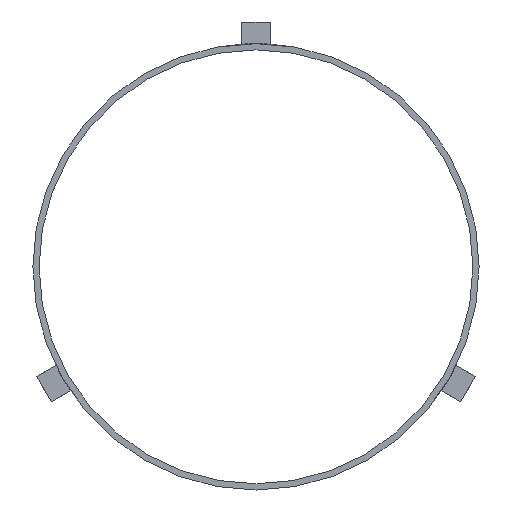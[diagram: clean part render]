
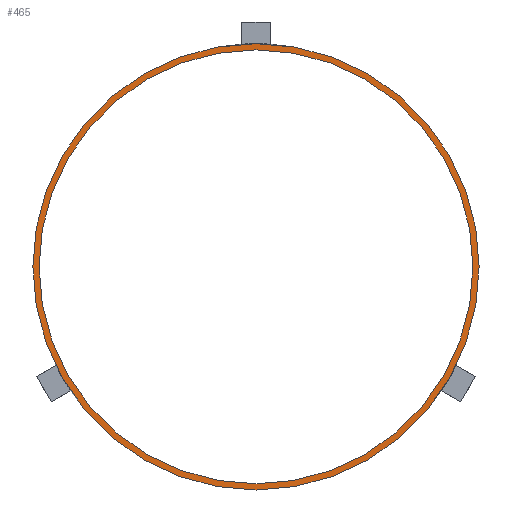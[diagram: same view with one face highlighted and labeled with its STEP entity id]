
A CAD part, left-side view. The second image highlights one B-rep face of the part: STEP entity #465.
In plain terms, the highlighted planar face has unit normal (-1, 0, 0).
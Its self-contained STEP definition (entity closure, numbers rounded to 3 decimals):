
#21 = EDGE_CURVE('',#22,#22,#24,.T.);
#22 = VERTEX_POINT('',#23);
#23 = CARTESIAN_POINT('',(-26.5,108.,0.));
#24 = SURFACE_CURVE('',#25,(#30,#42),.PCURVE_S1.);
#25 = CIRCLE('',#26,108.);
#26 = AXIS2_PLACEMENT_3D('',#27,#28,#29);
#27 = CARTESIAN_POINT('',(-26.5,0.,0.));
#28 = DIRECTION('',(1.,0.,0.));
#29 = DIRECTION('',(0.,1.,0.));
#30 = PCURVE('',#31,#36);
#31 = CYLINDRICAL_SURFACE('',#32,108.);
#32 = AXIS2_PLACEMENT_3D('',#33,#34,#35);
#33 = CARTESIAN_POINT('',(-26.5,0.,0.));
#34 = DIRECTION('',(-1.,-0.,-0.));
#35 = DIRECTION('',(0.,1.,0.));
#36 = DEFINITIONAL_REPRESENTATION('',(#37),#41);
#37 = LINE('',#38,#39);
#38 = CARTESIAN_POINT('',(-0.,0.));
#39 = VECTOR('',#40,1.);
#40 = DIRECTION('',(-1.,0.));
#41 = ( GEOMETRIC_REPRESENTATION_CONTEXT(2) 
PARAMETRIC_REPRESENTATION_CONTEXT() REPRESENTATION_CONTEXT('2D SPACE',''
  ) );
#42 = PCURVE('',#43,#48);
#43 = PLANE('',#44);
#44 = AXIS2_PLACEMENT_3D('',#45,#46,#47);
#45 = CARTESIAN_POINT('',(-26.5,0.,0.));
#46 = DIRECTION('',(1.,0.,0.));
#47 = DIRECTION('',(-0.,0.,1.));
#48 = DEFINITIONAL_REPRESENTATION('',(#49),#53);
#49 = CIRCLE('',#50,108.);
#50 = AXIS2_PLACEMENT_2D('',#51,#52);
#51 = CARTESIAN_POINT('',(0.,0.));
#52 = DIRECTION('',(0.,-1.));
#53 = ( GEOMETRIC_REPRESENTATION_CONTEXT(2) 
PARAMETRIC_REPRESENTATION_CONTEXT() REPRESENTATION_CONTEXT('2D SPACE',''
  ) );
#465 = ADVANCED_FACE('',(#466,#469),#43,.F.);
#466 = FACE_BOUND('',#467,.F.);
#467 = EDGE_LOOP('',(#468));
#468 = ORIENTED_EDGE('',*,*,#21,.T.);
#469 = FACE_BOUND('',#470,.F.);
#470 = EDGE_LOOP('',(#471));
#471 = ORIENTED_EDGE('',*,*,#472,.F.);
#472 = EDGE_CURVE('',#473,#473,#475,.T.);
#473 = VERTEX_POINT('',#474);
#474 = CARTESIAN_POINT('',(-26.5,105.,0.));
#475 = SURFACE_CURVE('',#476,(#481,#488),.PCURVE_S1.);
#476 = CIRCLE('',#477,105.);
#477 = AXIS2_PLACEMENT_3D('',#478,#479,#480);
#478 = CARTESIAN_POINT('',(-26.5,0.,0.)
  );
#479 = DIRECTION('',(1.,0.,0.));
#480 = DIRECTION('',(0.,1.,0.));
#481 = PCURVE('',#43,#482);
#482 = DEFINITIONAL_REPRESENTATION('',(#483),#487);
#483 = CIRCLE('',#484,105.);
#484 = AXIS2_PLACEMENT_2D('',#485,#486);
#485 = CARTESIAN_POINT('',(0.,0.));
#486 = DIRECTION('',(0.,-1.));
#487 = ( GEOMETRIC_REPRESENTATION_CONTEXT(2) 
PARAMETRIC_REPRESENTATION_CONTEXT() REPRESENTATION_CONTEXT('2D SPACE',''
  ) );
#488 = PCURVE('',#489,#494);
#489 = CYLINDRICAL_SURFACE('',#490,105.);
#490 = AXIS2_PLACEMENT_3D('',#491,#492,#493);
#491 = CARTESIAN_POINT('',(-26.5,0.,0.)
  );
#492 = DIRECTION('',(-1.,-0.,-0.));
#493 = DIRECTION('',(0.,1.,0.));
#494 = DEFINITIONAL_REPRESENTATION('',(#495),#499);
#495 = LINE('',#496,#497);
#496 = CARTESIAN_POINT('',(-0.,0.));
#497 = VECTOR('',#498,1.);
#498 = DIRECTION('',(-1.,0.));
#499 = ( GEOMETRIC_REPRESENTATION_CONTEXT(2) 
PARAMETRIC_REPRESENTATION_CONTEXT() REPRESENTATION_CONTEXT('2D SPACE',''
  ) );
